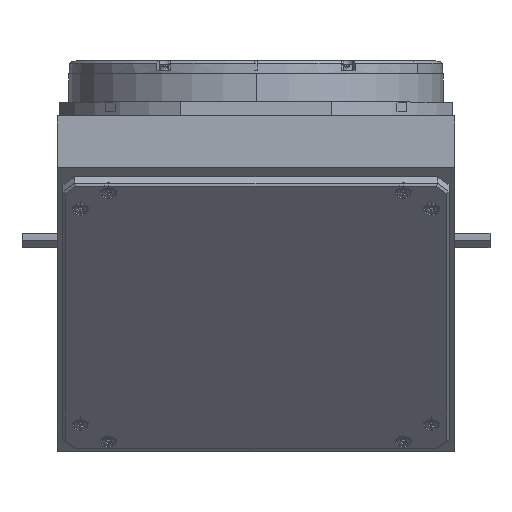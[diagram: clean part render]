
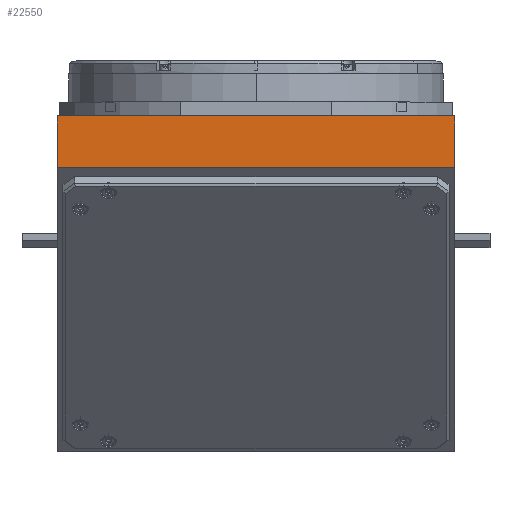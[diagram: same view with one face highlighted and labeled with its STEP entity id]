
A CAD part, top view. The second image highlights one B-rep face of the part: STEP entity #22550.
In plain terms, the highlighted planar face has unit normal (0, 0, 1).
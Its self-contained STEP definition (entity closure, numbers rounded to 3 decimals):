
#311 = VERTEX_POINT ( 'NONE', #18364 ) ;
#1931 = DIRECTION ( 'NONE',  ( 0., 1., 0. ) ) ;
#3337 = VERTEX_POINT ( 'NONE', #7073 ) ;
#4937 = CARTESIAN_POINT ( 'NONE',  ( -85., 97.6, 85. ) ) ;
#5191 = DIRECTION ( 'NONE',  ( -1., 0., 0. ) ) ;
#5859 = CARTESIAN_POINT ( 'NONE',  ( 100., 97.6, 85. ) ) ;
#6051 = EDGE_CURVE ( 'NONE', #16748, #311, #16614, .T. ) ;
#6348 = VECTOR ( 'NONE', #18381, 1000. ) ;
#6401 = EDGE_CURVE ( 'NONE', #3337, #311, #14242, .T. ) ;
#7073 = CARTESIAN_POINT ( 'NONE',  ( -85., 75.6, 85. ) ) ;
#7449 = EDGE_CURVE ( 'NONE', #14399, #3337, #20311, .T. ) ;
#7568 = EDGE_LOOP ( 'NONE', ( #13262, #24647, #12682, #21085 ) ) ;
#8230 = LINE ( 'NONE', #24281, #6348 ) ;
#8746 = DIRECTION ( 'NONE',  ( -1., 0., 0. ) ) ;
#12682 = ORIENTED_EDGE ( 'NONE', *, *, #6401, .F. ) ;
#13262 = ORIENTED_EDGE ( 'NONE', *, *, #22810, .T. ) ;
#13953 = CARTESIAN_POINT ( 'NONE',  ( 85., 75.6, 85. ) ) ;
#14242 = LINE ( 'NONE', #4937, #20371 ) ;
#14399 = VERTEX_POINT ( 'NONE', #13953 ) ;
#16614 = LINE ( 'NONE', #5859, #24592 ) ;
#16748 = VERTEX_POINT ( 'NONE', #28341 ) ;
#17906 = DIRECTION ( 'NONE',  ( -1., 0., 0. ) ) ;
#18364 = CARTESIAN_POINT ( 'NONE',  ( -85., 97.6, 85. ) ) ;
#18381 = DIRECTION ( 'NONE',  ( 0., 1., 0. ) ) ;
#20034 = CARTESIAN_POINT ( 'NONE',  ( 100., 75.6, 85. ) ) ;
#20127 = PLANE ( 'NONE',  #32012 ) ;
#20311 = LINE ( 'NONE', #20034, #27315 ) ;
#20371 = VECTOR ( 'NONE', #1931, 1000. ) ;
#21085 = ORIENTED_EDGE ( 'NONE', *, *, #7449, .F. ) ;
#22550 = ADVANCED_FACE ( 'NONE', ( #29771 ), #20127, .F. ) ;
#22810 = EDGE_CURVE ( 'NONE', #14399, #16748, #8230, .T. ) ;
#23097 = DIRECTION ( 'NONE',  ( 0., 0., -1. ) ) ;
#24281 = CARTESIAN_POINT ( 'NONE',  ( 85., 97.6, 85. ) ) ;
#24592 = VECTOR ( 'NONE', #8746, 1000. ) ;
#24647 = ORIENTED_EDGE ( 'NONE', *, *, #6051, .T. ) ;
#27315 = VECTOR ( 'NONE', #17906, 1000. ) ;
#28341 = CARTESIAN_POINT ( 'NONE',  ( 85., 97.6, 85. ) ) ;
#29771 = FACE_OUTER_BOUND ( 'NONE', #7568, .T. ) ;
#32012 = AXIS2_PLACEMENT_3D ( 'NONE', #32029, #23097, #5191 ) ;
#32029 = CARTESIAN_POINT ( 'NONE',  ( 100., 97.6, 85. ) ) ;
